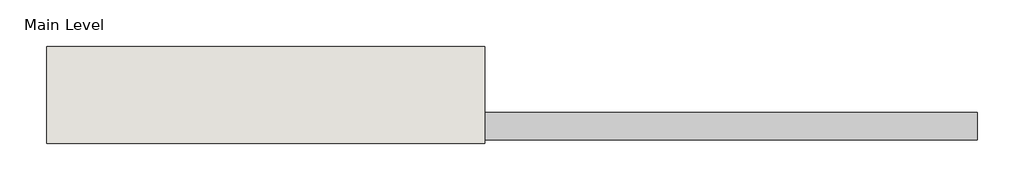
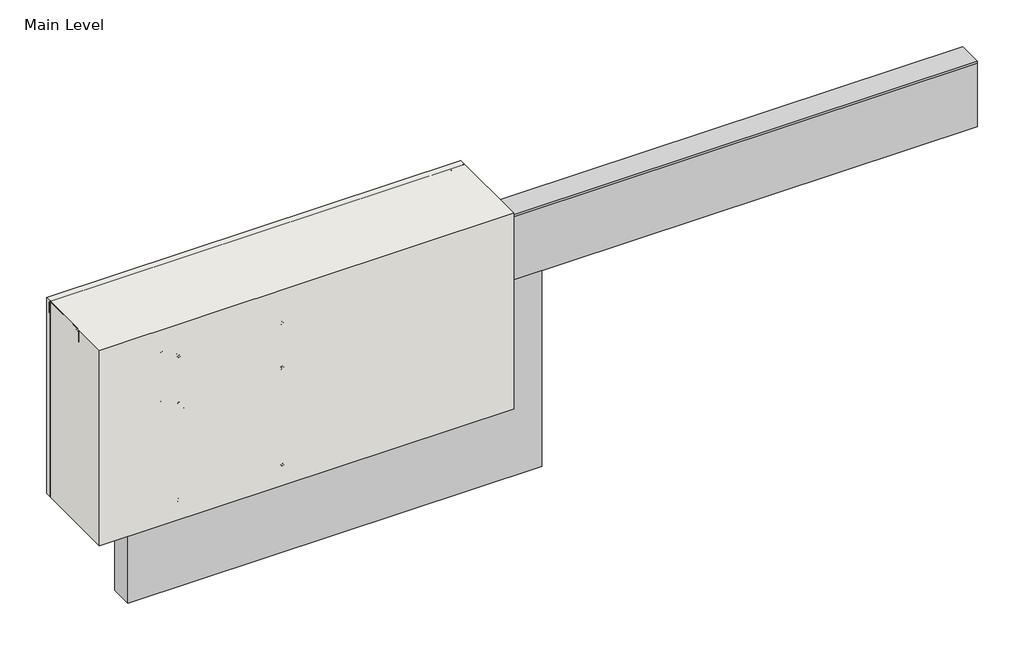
# One storey, incomplete: 12 proxies, 1 wall.
"""IFC4 building model written with IfcOpenShell, lengths in millimetres."""

from ifc_helpers import new_model, si_unit, origin, origin_with_axes, place, context, project, spatial, polyline, outline, extrude, transform, mapped, element, save
from components import generic_models_2388f69b, generic_models_8c792c9c, proxy_215900e5, proxy_4c3b85e5, wood_blocking_3523bb6f

model = new_model("IFC4")

# Units and contexts
model_context = context("Model", 3, world=origin())
ifc_project = project(units=[si_unit("LENGTHUNIT", "METRE", prefix="MILLI")], contexts=[model_context])

# Site, building, storey
site = spatial("IfcSite", under=ifc_project)
building = spatial("IfcBuilding", under=site)
storey = spatial("IfcBuildingStorey", under=building, Name="Main Level", Elevation=0.0)

# Proxies
placement = place(None, origin())
generic_models_shape = generic_models_2388f69b(model_context)
element("IfcBuildingElementProxy", 1, Name="CRAi Generic Model Metal Stud Array : CRAi Generic Model Metal Stud Array", ObjectType="CRAi Generic Model Metal Stud Array : CRAi Generic Model Metal Stud Array", at=placement, inside=storey, context=model_context, shape_type="MappedRepresentation", body=[
    mapped(generic_models_shape, transform((26824.9289273, 719.7066297, 0.0), x_axis=(-1.0, 0.0, 0.0), y_axis=(0.0, -1.0, 0.0), z_axis=(0.0, 0.0, 1.0))),
])
generic_models_2_shape = generic_models_8c792c9c(model_context)
element("IfcBuildingElementProxy", 2, Name="Durabond Generic Model Screw w Standard Wall Plate : Durabond Generic Model Screw w Standard Wall Plate", ObjectType="Durabond Generic Model Screw w Standard Wall Plate : Durabond Generic Model Screw w Standard Wall Plate", at=placement, inside=storey, context=model_context, shape_type="MappedRepresentation", body=[
    mapped(generic_models_2_shape, transform((26405.8289273, 547.4628797, 527.05), x_axis=(1.0, 0.0, 0.0), y_axis=(0.0, 0.0, 1.0), z_axis=(0.0, -1.0, 0.0))),
])
element("IfcBuildingElementProxy", 3, Name="Durabond Generic Model Screw w Standard Wall Plate : Durabond Generic Model Screw w Standard Wall Plate", ObjectType="Durabond Generic Model Screw w Standard Wall Plate : Durabond Generic Model Screw w Standard Wall Plate", at=placement, inside=storey, context=model_context, shape_type="MappedRepresentation", body=[
    mapped(generic_models_2_shape, transform((26456.6289273, 544.2878797, 495.3), x_axis=(1.0, 0.0, 0.0), y_axis=(0.0, 0.0, 1.0), z_axis=(0.0, -1.0, 0.0))),
])
element("IfcBuildingElementProxy", 4, Name="Durabond Generic Model Screw w Standard Wall Plate : Durabond Generic Model Screw w Standard Wall Plate", ObjectType="Durabond Generic Model Screw w Standard Wall Plate : Durabond Generic Model Screw w Standard Wall Plate", at=placement, inside=storey, context=model_context, shape_type="MappedRepresentation", body=[
    mapped(generic_models_2_shape, transform((26405.8289273, 547.4628797, 374.65), x_axis=(1.0, 0.0, 0.0), y_axis=(0.0, 0.0, 1.0), z_axis=(0.0, -1.0, 0.0))),
])
element("IfcBuildingElementProxy", 5, Name="Durabond Generic Model Screw w Standard Wall Plate : Durabond Generic Model Screw w Standard Wall Plate", ObjectType="Durabond Generic Model Screw w Standard Wall Plate : Durabond Generic Model Screw w Standard Wall Plate", at=placement, inside=storey, context=model_context, shape_type="MappedRepresentation", body=[
    mapped(generic_models_2_shape, transform((26456.6289273, 544.2878797, 355.6), x_axis=(1.0, 0.0, 0.0), y_axis=(0.0, 0.0, 1.0), z_axis=(0.0, -1.0, 0.0))),
])
element("IfcBuildingElementProxy", 6, Name="Durabond Generic Model Screw w Standard Wall Plate : Durabond Generic Model Screw w Standard Wall Plate", ObjectType="Durabond Generic Model Screw w Standard Wall Plate : Durabond Generic Model Screw w Standard Wall Plate", at=placement, inside=storey, context=model_context, shape_type="MappedRepresentation", body=[
    mapped(generic_models_2_shape, transform((26456.6289273, 544.2878797, 50.8), x_axis=(1.0, 0.0, 0.0), y_axis=(0.0, 0.0, 1.0), z_axis=(0.0, -1.0, 0.0))),
])
element("IfcBuildingElementProxy", 7, Name="Durabond Generic Model Screw w Standard Wall Plate : Durabond Generic Model Screw w Standard Wall Plate", ObjectType="Durabond Generic Model Screw w Standard Wall Plate : Durabond Generic Model Screw w Standard Wall Plate", at=placement, inside=storey, context=model_context, shape_type="MappedRepresentation", body=[
    mapped(generic_models_2_shape, transform((26761.4289273, 544.2878797, 495.3), x_axis=(1.0, 0.0, 0.0), y_axis=(0.0, 0.0, 1.0), z_axis=(0.0, -1.0, 0.0))),
])
element("IfcBuildingElementProxy", 8, Name="Durabond Generic Model Screw w Standard Wall Plate : Durabond Generic Model Screw w Standard Wall Plate", ObjectType="Durabond Generic Model Screw w Standard Wall Plate : Durabond Generic Model Screw w Standard Wall Plate", at=placement, inside=storey, context=model_context, shape_type="MappedRepresentation", body=[
    mapped(generic_models_2_shape, transform((26761.4289273, 544.2878797, 355.6), x_axis=(1.0, 0.0, 0.0), y_axis=(0.0, 0.0, 1.0), z_axis=(0.0, -1.0, 0.0))),
])
element("IfcBuildingElementProxy", 9, Name="Durabond Generic Model Screw w Standard Wall Plate : Durabond Generic Model Screw w Standard Wall Plate", ObjectType="Durabond Generic Model Screw w Standard Wall Plate : Durabond Generic Model Screw w Standard Wall Plate", at=placement, inside=storey, context=model_context, shape_type="MappedRepresentation", body=[
    mapped(generic_models_2_shape, transform((26761.4289273, 544.2878797, 50.8), x_axis=(1.0, 0.0, 0.0), y_axis=(0.0, 0.0, 1.0), z_axis=(0.0, -1.0, 0.0))),
])
proxy_shape = proxy_215900e5(model_context)
element("IfcBuildingElementProxy", 10, Name="Durabond Generic Model Insulite Select Extruded Insulation Board : 3\"", ObjectType="Durabond Generic Model Insulite Select Extruded Insulation Board : 3\"", at=placement, inside=storey, context=model_context, shape_type="MappedRepresentation", body=[
    mapped(proxy_shape, transform((26913.8289273, 624.4566297, 88.9), x_axis=(1.0, 0.0, 0.0), y_axis=(0.0, 0.0, 1.0), z_axis=(0.0, -1.0, 0.0))),
])
proxy_2_shape = proxy_4c3b85e5(model_context)
element("IfcBuildingElementProxy", 11, Name="Durabond Generic Model Insulite Select Extruded Boundary Board : 3\"", ObjectType="Durabond Generic Model Insulite Select Extruded Boundary Board : 3\"", at=placement, inside=storey, context=model_context, shape_type="MappedRepresentation", body=[
    mapped(proxy_2_shape, transform((27586.9289273, 624.4566297, 495.3), x_axis=(-1.0, 0.0, 0.0), y_axis=(0.0, 0.0, -1.0), z_axis=(0.0, -1.0, 0.0))),
])
wood_blocking_shape = wood_blocking_3523bb6f(model_context)
element("IfcBuildingElementProxy", 12, Name="CRAi Generic Model Line Based Metal Framing Track : Wood Blocking", ObjectType="CRAi Generic Model Line Based Metal Framing Track : Wood Blocking", at=placement, inside=storey, context=model_context, shape_type="MappedRepresentation", body=[
    mapped(wood_blocking_shape, transform((26215.3289273, 795.9066297, 609.6), x_axis=(1.0, 0.0, 0.0), y_axis=(0.0, -1.0, 0.0), z_axis=(0.0, 0.0, -1.0))),
])

# Wall
element("IfcWall", 13, ObjectType="189mm (7.5”) EIFS Field Applied on Mtl. Stud Layer - 50mm Grooved Insulation Board Metal Stud Wall(AirStop) 2", at=placement, inside=storey, context=model_context, shape_type="SweptSolid", body=[
    extrude(outline(polyline([(27434.5289273, 538.7316297), (26215.3289273, 538.7316297), (26215.3289273, 808.6066297), (27434.5289273, 808.6066297), (27434.5289273, 538.7316297)])), origin_with_axes(), (0.0, 0.0, 1.0), 609.6),
])

save(model, "model.ifc")
